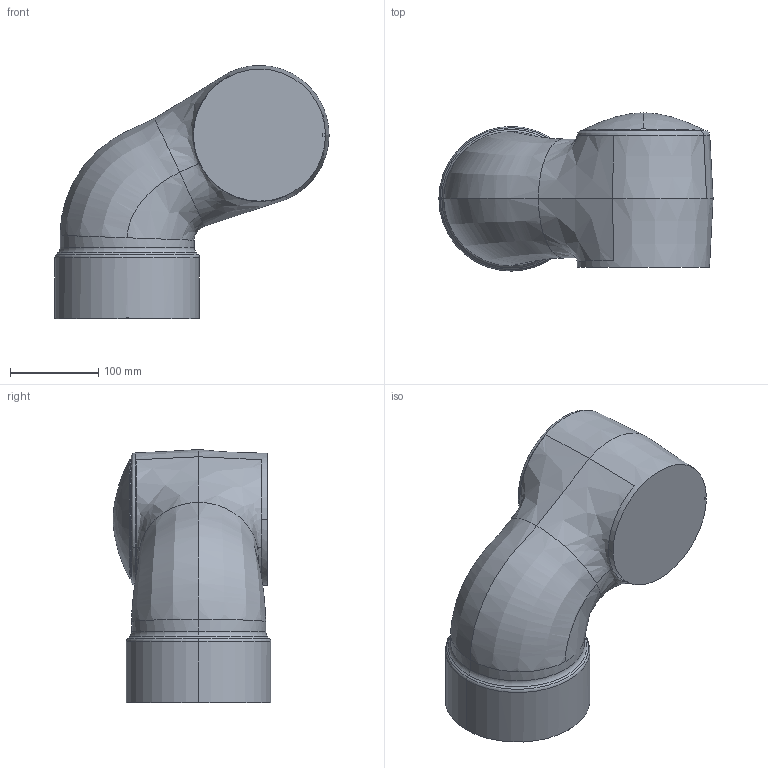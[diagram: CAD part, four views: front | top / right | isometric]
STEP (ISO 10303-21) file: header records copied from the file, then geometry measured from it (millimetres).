
FILE_DESCRIPTION (( 'STEP AP214' ), '1' );
FILE_NAME ('CRB1910_10kg-1520_OmniCore_rev00_Link1.step', '2026-03-26T03:33:07', ( '' ), ( '' ), 'SwSTEP 2.0', 'SolidWorks 2022', '' );
FILE_SCHEMA (( 'AUTOMOTIVE_DESIGN' ));
Length unit declared in the file: millimetre
Products named in the file (1): CRB1910_10kg-1520_OmniCore_rev00_Link1
Bounding box: 311 x 179 x 286.99 mm (x, y, z)
Volume: 7076286.7 mm3; surface area: 228714.8 mm2
Topology: 1 solids, 1 shells, 48 faces, 115 edges, 69 vertices
Faces by surface type: bspline 12, plane 10, cylinder 9, cone 9, torus 8
Entity records: 18424 total; most frequent: CARTESIAN_POINT 17355, ORIENTED_EDGE 226, DIRECTION 202, EDGE_CURVE 113, AXIS2_PLACEMENT_3D 86, VERTEX_POINT 69, EDGE_LOOP 50, CIRCLE 49
